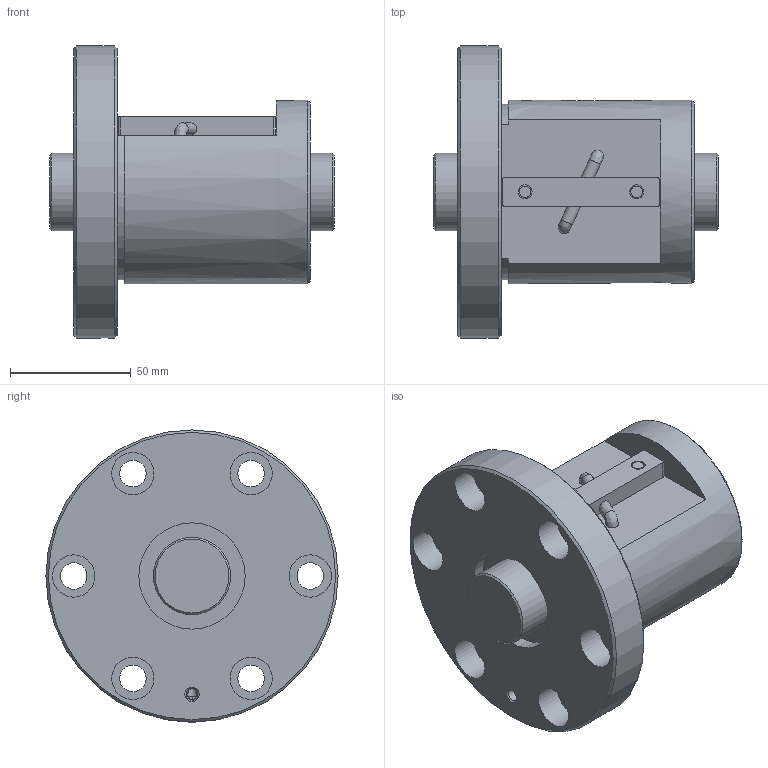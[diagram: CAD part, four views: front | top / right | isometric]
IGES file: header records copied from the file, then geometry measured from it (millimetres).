
Start section: Data from Parasolid IGES Translator 26.0.171, Copyright(c) 2006 Siemens PLM Software. All Rights Reserved.
Global section: file name: BNF3212V-3.5RRG1+118LC0_000_rev.igs; native system: By Siemens PLM Incorporated; preprocessor: XPlus GENERIC/IGES 26.0.171; author: Noname; organization: Noname; date: 20240806.083759; units: millimetre
Bounding box: 118 x 121 x 121 mm (x, y, z)
Surface area: 77754.5 mm2 (no closed solid volume)
Topology: 0 solids, 0 shells, 71 faces, 328 edges, 286 vertices
Faces by surface type: revolution 44, extrusion 27
